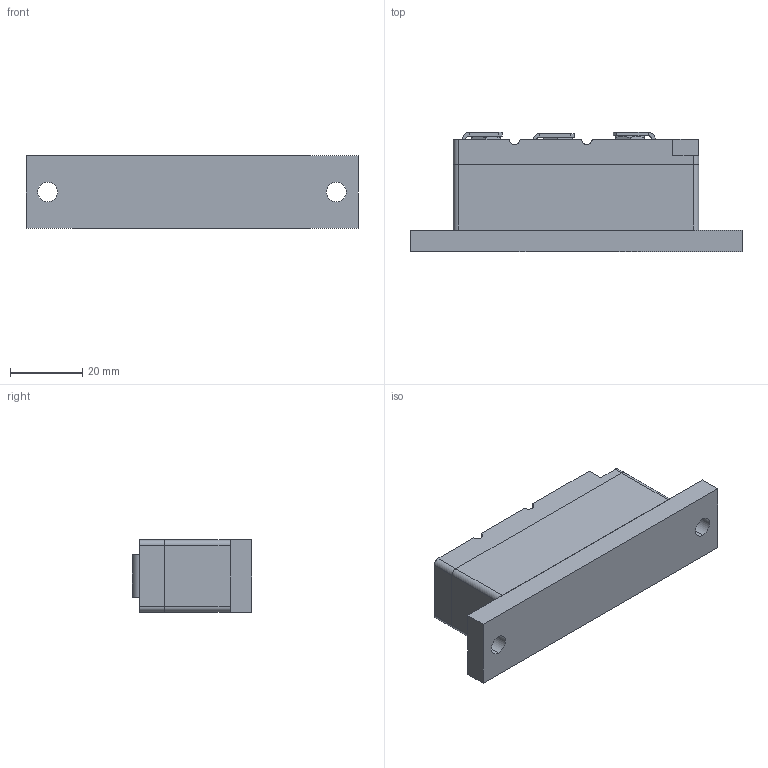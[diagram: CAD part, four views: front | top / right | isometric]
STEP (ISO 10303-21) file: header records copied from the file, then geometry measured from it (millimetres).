
FILE_DESCRIPTION (( 'STEP AP214' ), '1' );
FILE_NAME ('MTD1-D.STEP', '2021-02-08T07:14:11', ( '' ), ( '' ), 'SwSTEP 2.0', 'SolidWorks 2018', '' );
FILE_SCHEMA (( 'AUTOMOTIVE_DESIGN' ));
Length unit declared in the file: millimetre
Products named in the file (1): MTD1-D
Bounding box: 92 x 33.13 x 20 mm (x, y, z)
Volume: 24340.3 mm3; surface area: 21157.5 mm2
Topology: 10 solids, 10 shells, 315 faces, 809 edges, 519 vertices
Faces by surface type: plane 239, cylinder 57, cone 16, sphere 2, bspline 1
Entity records: 13360 total; most frequent: CARTESIAN_POINT 2010, ORIENTED_EDGE 1618, DIRECTION 1543, EDGE_CURVE 809, LINE 621, VECTOR 621, VERTEX_POINT 519, AXIS2_PLACEMENT_3D 461
